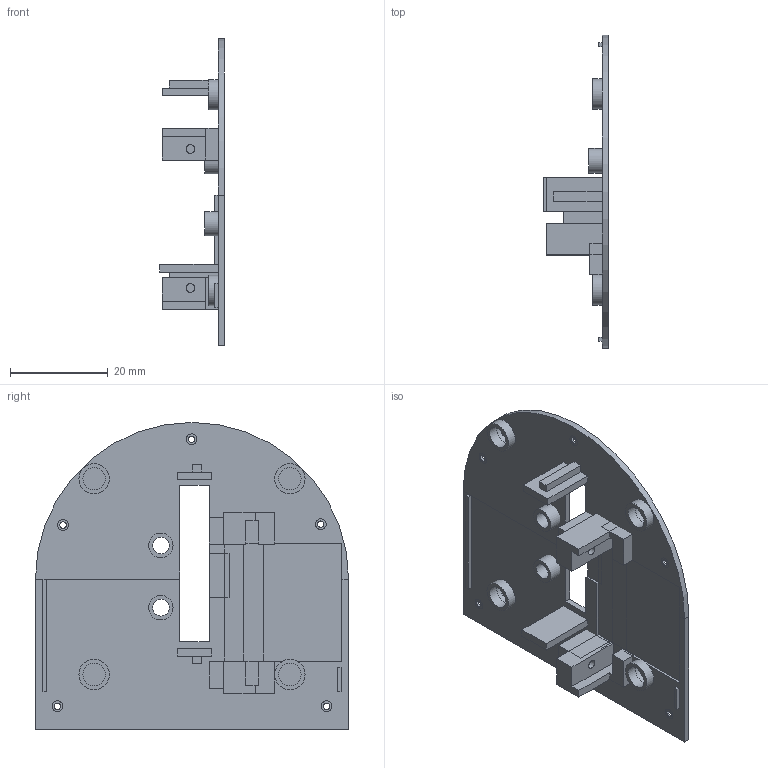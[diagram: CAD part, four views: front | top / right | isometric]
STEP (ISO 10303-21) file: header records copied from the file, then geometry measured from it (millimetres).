
FILE_DESCRIPTION(('FreeCAD Model'),'2;1');
FILE_NAME('/Users/alberto/Desktop/Dtto v2.0.1 STEP/009-1.step', '2017-05-29T11:46:59',('Author'),(''), 'Open CASCADE STEP processor 6.8','FreeCAD','Unknown');
FILE_SCHEMA(('AUTOMOTIVE_DESIGN_CC2 { 1 2 10303 214 -1 1 5 4 }'));
Length unit declared in the file: millimetre
Products named in the file (15): ASSEMBLY; Cut243; Clone_of_Cut007; Clone_of_Cut008; Clone_of_Cut009; Clone_of_Cut010; Cubo311; Cubo312; Cubo329; Cubo330; Cubo309; Cubo310; Cut214; Clone_of_SoportLED005; Clone_of_SoportLED006
Assembly tree (14 placements, depth 2):
  ASSEMBLY
    Cut243
    Clone_of_Cut007
    Clone_of_Cut008
    Clone_of_Cut009
    Clone_of_Cut010
    Cubo311
    Cubo312
    Cubo329
    Cubo330
    Cubo309
    Cubo310
    Cut214
    Clone_of_SoportLED005
    Clone_of_SoportLED006
Bounding box: 13.25 x 64 x 62.75 mm (x, y, z)
Volume: 5456.8 mm3; surface area: 9779.3 mm2
Topology: 15 solids, 15 shells, 171 faces, 368 edges, 236 vertices
Faces by surface type: plane 140, cylinder 26, cone 5
Full cylindrical faces by diameter (mm): 1.3 x5, 1.8 x2, 3.4 x4, 4.6 x8, 5 x2, 6.2 x4
Entity records: 9656 total; most frequent: CARTESIAN_POINT 1672, DIRECTION 1402, LINE 846, VECTOR 846, ORIENTED_EDGE 736, PCURVE 736, DEFINITIONAL_REPRESENTATION 736, EDGE_CURVE 368
